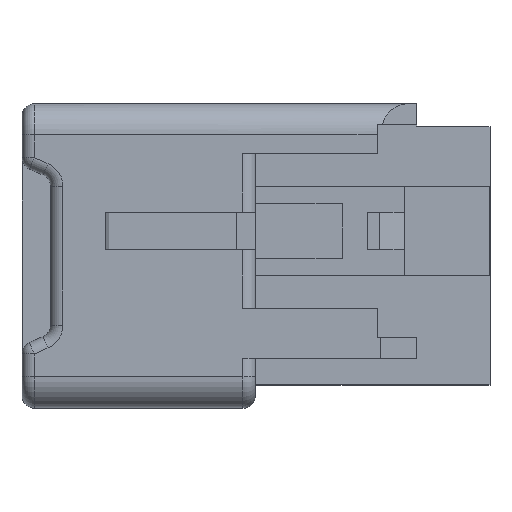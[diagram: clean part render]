
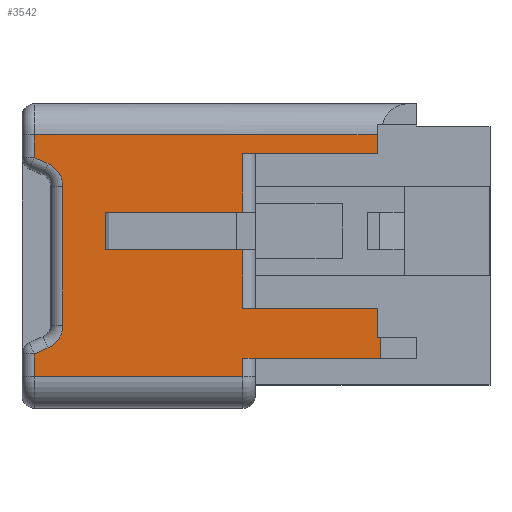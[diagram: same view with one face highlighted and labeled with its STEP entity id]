
A CAD part, top view. The second image highlights one B-rep face of the part: STEP entity #3542.
In plain terms, the highlighted planar face has unit normal (0, 0, 1).
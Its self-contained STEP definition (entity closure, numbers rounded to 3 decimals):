
#3469=AXIS2_PLACEMENT_3D('Plane Axis2P3D',#3466,#3467,#3468) ;
#3487=AXIS2_PLACEMENT_3D('Circle Axis2P3D',#3485,#3486,$) ;
#3501=AXIS2_PLACEMENT_3D('Circle Axis2P3D',#3499,#3500,$) ;
#2016=CARTESIAN_POINT('Vertex',(11.6,1.45,4.5)) ;
#2028=CARTESIAN_POINT('Vertex',(11.3,1.45,4.5)) ;
#2031=CARTESIAN_POINT('Line Origine',(11.45,1.45,4.5)) ;
#2294=CARTESIAN_POINT('Vertex',(-10.564,8.5,4.5)) ;
#2301=CARTESIAN_POINT('Vertex',(-10.564,11.5,4.5)) ;
#2304=CARTESIAN_POINT('Line Origine',(-10.564,10.,4.5)) ;
#2474=CARTESIAN_POINT('Vertex',(11.6,-0.25,4.5)) ;
#2477=CARTESIAN_POINT('Line Origine',(6.05,-0.25,4.5)) ;
#2481=CARTESIAN_POINT('Vertex',(0.5,-0.25,4.5)) ;
#2672=CARTESIAN_POINT('Vertex',(0.5,-1.75,4.5)) ;
#2692=CARTESIAN_POINT('Line Origine',(0.5,8.,4.5)) ;
#2739=CARTESIAN_POINT('Line Origine',(11.6,0.6,4.5)) ;
#2767=CARTESIAN_POINT('Vertex',(11.3,16.25,4.5)) ;
#2770=CARTESIAN_POINT('Line Origine',(5.9,16.25,4.5)) ;
#2774=CARTESIAN_POINT('Vertex',(0.5,16.25,4.5)) ;
#2822=CARTESIAN_POINT('Line Origine',(-5.032,11.5,4.5)) ;
#2826=CARTESIAN_POINT('Vertex',(0.5,11.5,4.5)) ;
#2847=CARTESIAN_POINT('Line Origine',(0.5,8.,4.5)) ;
#2864=CARTESIAN_POINT('Line Origine',(11.3,17.,4.5)) ;
#2868=CARTESIAN_POINT('Vertex',(11.3,17.75,4.5)) ;
#2893=CARTESIAN_POINT('Vertex',(0.5,3.75,4.5)) ;
#2898=CARTESIAN_POINT('Line Origine',(5.9,3.75,4.5)) ;
#2902=CARTESIAN_POINT('Vertex',(11.3,3.75,4.5)) ;
#2954=CARTESIAN_POINT('Line Origine',(-5.032,8.5,4.5)) ;
#2958=CARTESIAN_POINT('Vertex',(0.5,8.5,4.5)) ;
#2979=CARTESIAN_POINT('Line Origine',(0.5,8.,4.5)) ;
#2991=CARTESIAN_POINT('Line Origine',(11.3,2.6,4.5)) ;
#3096=CARTESIAN_POINT('Line Origine',(-1.4,17.75,4.5)) ;
#3100=CARTESIAN_POINT('Vertex',(-16.3,17.75,4.5)) ;
#3283=CARTESIAN_POINT('Line Origine',(-2.85,-1.75,4.5)) ;
#3287=CARTESIAN_POINT('Vertex',(-16.3,-1.75,4.5)) ;
#3466=CARTESIAN_POINT('Axis2P3D Location',(1.5,0.,4.5)) ;
#3471=CARTESIAN_POINT('Line Origine',(-16.3,16.828,4.5)) ;
#3475=CARTESIAN_POINT('Vertex',(-16.3,15.906,4.5)) ;
#3478=CARTESIAN_POINT('Line Origine',(-15.751,15.667,4.5)) ;
#3482=CARTESIAN_POINT('Vertex',(-15.203,15.428,4.5)) ;
#3485=CARTESIAN_POINT('Axis2P3D Location',(-16.,13.594,4.5)) ;
#3489=CARTESIAN_POINT('Vertex',(-14.,13.594,4.5)) ;
#3492=CARTESIAN_POINT('Line Origine',(-14.,8.,4.5)) ;
#3496=CARTESIAN_POINT('Vertex',(-14.,2.406,4.5)) ;
#3499=CARTESIAN_POINT('Axis2P3D Location',(-16.,2.406,4.5)) ;
#3503=CARTESIAN_POINT('Vertex',(-15.203,0.572,4.5)) ;
#3506=CARTESIAN_POINT('Line Origine',(-15.751,0.333,4.5)) ;
#3510=CARTESIAN_POINT('Vertex',(-16.3,0.094,4.5)) ;
#3513=CARTESIAN_POINT('Line Origine',(-16.3,-0.828,4.5)) ;
#2032=DIRECTION('Vector Direction',(-1.,0.,0.)) ;
#2305=DIRECTION('Vector Direction',(0.,1.,0.)) ;
#2478=DIRECTION('Vector Direction',(-1.,0.,0.)) ;
#2693=DIRECTION('Vector Direction',(0.,1.,0.)) ;
#2740=DIRECTION('Vector Direction',(0.,1.,0.)) ;
#2771=DIRECTION('Vector Direction',(-1.,0.,0.)) ;
#2823=DIRECTION('Vector Direction',(-1.,0.,0.)) ;
#2848=DIRECTION('Vector Direction',(0.,1.,0.)) ;
#2865=DIRECTION('Vector Direction',(0.,1.,0.)) ;
#2899=DIRECTION('Vector Direction',(-1.,0.,0.)) ;
#2955=DIRECTION('Vector Direction',(-1.,0.,0.)) ;
#2980=DIRECTION('Vector Direction',(0.,1.,0.)) ;
#2992=DIRECTION('Vector Direction',(0.,1.,0.)) ;
#3097=DIRECTION('Vector Direction',(1.,0.,0.)) ;
#3284=DIRECTION('Vector Direction',(-1.,0.,0.)) ;
#3467=DIRECTION('Axis2P3D Direction',(0.,0.,-1.)) ;
#3468=DIRECTION('Axis2P3D XDirection',(-1.,0.,0.)) ;
#3472=DIRECTION('Vector Direction',(0.,1.,0.)) ;
#3479=DIRECTION('Vector Direction',(0.917,-0.399,0.)) ;
#3486=DIRECTION('Axis2P3D Direction',(0.,0.,-1.)) ;
#3493=DIRECTION('Vector Direction',(0.,1.,0.)) ;
#3500=DIRECTION('Axis2P3D Direction',(0.,0.,-1.)) ;
#3507=DIRECTION('Vector Direction',(0.917,0.399,0.)) ;
#3514=DIRECTION('Vector Direction',(0.,1.,0.)) ;
#2033=VECTOR('Line Direction',#2032,1.) ;
#2306=VECTOR('Line Direction',#2305,1.) ;
#2479=VECTOR('Line Direction',#2478,1.) ;
#2694=VECTOR('Line Direction',#2693,1.) ;
#2741=VECTOR('Line Direction',#2740,1.) ;
#2772=VECTOR('Line Direction',#2771,1.) ;
#2824=VECTOR('Line Direction',#2823,1.) ;
#2849=VECTOR('Line Direction',#2848,1.) ;
#2866=VECTOR('Line Direction',#2865,1.) ;
#2900=VECTOR('Line Direction',#2899,1.) ;
#2956=VECTOR('Line Direction',#2955,1.) ;
#2981=VECTOR('Line Direction',#2980,1.) ;
#2993=VECTOR('Line Direction',#2992,1.) ;
#3098=VECTOR('Line Direction',#3097,1.) ;
#3285=VECTOR('Line Direction',#3284,1.) ;
#3473=VECTOR('Line Direction',#3472,1.) ;
#3480=VECTOR('Line Direction',#3479,1.) ;
#3494=VECTOR('Line Direction',#3493,1.) ;
#3508=VECTOR('Line Direction',#3507,1.) ;
#3515=VECTOR('Line Direction',#3514,1.) ;
#3519=ORIENTED_EDGE('',*,*,#3477,.T.) ;
#3520=ORIENTED_EDGE('',*,*,#3484,.T.) ;
#3521=ORIENTED_EDGE('',*,*,#3491,.T.) ;
#3522=ORIENTED_EDGE('',*,*,#3498,.T.) ;
#3523=ORIENTED_EDGE('',*,*,#3505,.T.) ;
#3524=ORIENTED_EDGE('',*,*,#3512,.T.) ;
#3525=ORIENTED_EDGE('',*,*,#3517,.T.) ;
#3526=ORIENTED_EDGE('',*,*,#3289,.F.) ;
#3527=ORIENTED_EDGE('',*,*,#2696,.T.) ;
#3528=ORIENTED_EDGE('',*,*,#2483,.F.) ;
#3529=ORIENTED_EDGE('',*,*,#2743,.T.) ;
#3530=ORIENTED_EDGE('',*,*,#2035,.T.) ;
#3531=ORIENTED_EDGE('',*,*,#2995,.T.) ;
#3532=ORIENTED_EDGE('',*,*,#2904,.F.) ;
#3533=ORIENTED_EDGE('',*,*,#2983,.T.) ;
#3534=ORIENTED_EDGE('',*,*,#2960,.T.) ;
#3535=ORIENTED_EDGE('',*,*,#2308,.T.) ;
#3536=ORIENTED_EDGE('',*,*,#2828,.F.) ;
#3537=ORIENTED_EDGE('',*,*,#2851,.T.) ;
#3538=ORIENTED_EDGE('',*,*,#2776,.F.) ;
#3539=ORIENTED_EDGE('',*,*,#2870,.T.) ;
#3540=ORIENTED_EDGE('',*,*,#3102,.F.) ;
#3542=ADVANCED_FACE('\X2\FF8AFF9FFF70FF82\X0\ \X2\FF8EFF9EFF83FF9EFF68FF70\X0\',(#3541),#3470,.F.) ;
#3488=CIRCLE('generated circle',#3487,2.) ;
#3502=CIRCLE('generated circle',#3501,2.) ;
#2035=EDGE_CURVE('',#2017,#2029,#2034,.T.) ;
#2308=EDGE_CURVE('',#2295,#2302,#2307,.T.) ;
#2483=EDGE_CURVE('',#2475,#2482,#2480,.T.) ;
#2696=EDGE_CURVE('',#2673,#2482,#2695,.T.) ;
#2743=EDGE_CURVE('',#2475,#2017,#2742,.T.) ;
#2776=EDGE_CURVE('',#2768,#2775,#2773,.T.) ;
#2828=EDGE_CURVE('',#2827,#2302,#2825,.T.) ;
#2851=EDGE_CURVE('',#2827,#2775,#2850,.T.) ;
#2870=EDGE_CURVE('',#2768,#2869,#2867,.T.) ;
#2904=EDGE_CURVE('',#2894,#2903,#2901,.F.) ;
#2960=EDGE_CURVE('',#2959,#2295,#2957,.T.) ;
#2983=EDGE_CURVE('',#2894,#2959,#2982,.T.) ;
#2995=EDGE_CURVE('',#2029,#2903,#2994,.T.) ;
#3102=EDGE_CURVE('',#3101,#2869,#3099,.T.) ;
#3289=EDGE_CURVE('',#2673,#3288,#3286,.T.) ;
#3477=EDGE_CURVE('',#3101,#3476,#3474,.F.) ;
#3484=EDGE_CURVE('',#3476,#3483,#3481,.T.) ;
#3491=EDGE_CURVE('',#3483,#3490,#3488,.T.) ;
#3498=EDGE_CURVE('',#3490,#3497,#3495,.F.) ;
#3505=EDGE_CURVE('',#3497,#3504,#3502,.T.) ;
#3512=EDGE_CURVE('',#3504,#3511,#3509,.F.) ;
#3517=EDGE_CURVE('',#3511,#3288,#3516,.F.) ;
#3518=EDGE_LOOP('',(#3519,#3520,#3521,#3522,#3523,#3524,#3525,#3526,#3527,#3528,#3529,#3530,#3531,#3532,#3533,#3534,#3535,#3536,#3537,#3538,#3539,#3540)) ;
#3541=FACE_OUTER_BOUND('',#3518,.T.) ;
#2034=LINE('Line',#2031,#2033) ;
#2307=LINE('Line',#2304,#2306) ;
#2480=LINE('Line',#2477,#2479) ;
#2695=LINE('Line',#2692,#2694) ;
#2742=LINE('Line',#2739,#2741) ;
#2773=LINE('Line',#2770,#2772) ;
#2825=LINE('Line',#2822,#2824) ;
#2850=LINE('Line',#2847,#2849) ;
#2867=LINE('Line',#2864,#2866) ;
#2901=LINE('Line',#2898,#2900) ;
#2957=LINE('Line',#2954,#2956) ;
#2982=LINE('Line',#2979,#2981) ;
#2994=LINE('Line',#2991,#2993) ;
#3099=LINE('Line',#3096,#3098) ;
#3286=LINE('Line',#3283,#3285) ;
#3474=LINE('Line',#3471,#3473) ;
#3481=LINE('Line',#3478,#3480) ;
#3495=LINE('Line',#3492,#3494) ;
#3509=LINE('Line',#3506,#3508) ;
#3516=LINE('Line',#3513,#3515) ;
#3470=PLANE('',#3469) ;
#2017=VERTEX_POINT('',#2016) ;
#2029=VERTEX_POINT('',#2028) ;
#2295=VERTEX_POINT('',#2294) ;
#2302=VERTEX_POINT('',#2301) ;
#2475=VERTEX_POINT('',#2474) ;
#2482=VERTEX_POINT('',#2481) ;
#2673=VERTEX_POINT('',#2672) ;
#2768=VERTEX_POINT('',#2767) ;
#2775=VERTEX_POINT('',#2774) ;
#2827=VERTEX_POINT('',#2826) ;
#2869=VERTEX_POINT('',#2868) ;
#2894=VERTEX_POINT('',#2893) ;
#2903=VERTEX_POINT('',#2902) ;
#2959=VERTEX_POINT('',#2958) ;
#3101=VERTEX_POINT('',#3100) ;
#3288=VERTEX_POINT('',#3287) ;
#3476=VERTEX_POINT('',#3475) ;
#3483=VERTEX_POINT('',#3482) ;
#3490=VERTEX_POINT('',#3489) ;
#3497=VERTEX_POINT('',#3496) ;
#3504=VERTEX_POINT('',#3503) ;
#3511=VERTEX_POINT('',#3510) ;
